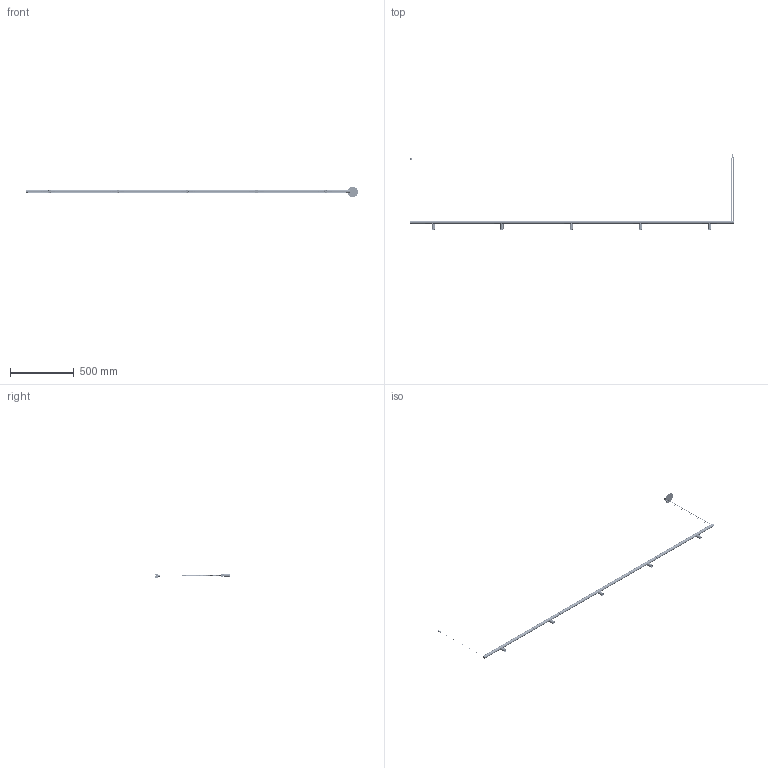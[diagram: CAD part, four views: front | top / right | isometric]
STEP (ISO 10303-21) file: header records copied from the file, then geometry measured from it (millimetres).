
FILE_DESCRIPTION (( 'STEP AP214' ), '1' );
FILE_NAME ('OVAL SPOT 25 rec.STEP', '2024-03-15T08:51:26', ( '' ), ( '' ), 'SwSTEP 2.0', 'SolidWorks 2024', '' );
FILE_SCHEMA (( 'AUTOMOTIVE_DESIGN' ));
Length unit declared in the file: millimetre
Products named in the file (41): Tuerca M8_Predeterminada; Difusor Negro Oval_0.1m; CJ04 - ENS Foco Spot (V1.2)_V3 09-20; 04-23DM03-Tope_Adaptador_1.3; CUI_DEVICES_PJ-005B_Ø2.5; 04-23DM02-Adaptador_Tapa(V1.2)_24V; countersunk flat head cross recess screw_din_DIN EN ISO 7046-1 - M2.5 x 6 - Z - 6N; Tubo Alu. Focus 25_V3-30-09-21; Regulador Cable Ø0.6 (Bereta LT1007.0601); Driver Entity EN1689; Ensamble Led; Tija Tiny_Inyección ; Tapa Micro V5_V5.1; Cable_VISUAL Alimentación Micro; Tuerca Hembra Conector Jack; BLX V-4 Single Array; Perfil Micro V4_2.5m; Ensamble Tapa + Tope_Con Conector; Tapa Alimentación Perfil_SCPRE; Floron U Muelle MICRO; Jack_Scpre; Tapa Unión-Final V5_V5.1 Colgante Union ; Taco cuerpo Micro; Ensamble Tensor Micro_Con Cable; Prisionero STEAB M4x4_8; Boca Focus 25_ZDNTL; Ensamblaje FLORON EMP. MICRO; Lente -115.11.HILL-20-22°-CREE; Ensamble Conector Jack Unión_Alimentación Colgante SCPRE; CJ01-ENS_Adaptador 24V_Proyector; Tapa Floron Emp. MICRO_Tapa empotarable; DM05-Tapa SPOT(V1.2); Tapon Tapa_2; Taco Micro_Ø10 M10*5; Conector Molex Hembra 43020; eje cable colgante_M8 MICRO; Cable acero_0.5m; Difusor Negro Oval_0.42m; 04-23DM01-Adaptador_Caja_DM01.3; OVAL SPOT 25 rec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
Assembly tree (58 placements, depth 4):
  OVAL SPOT 25 rec
    Perfil Micro V4_2.5m
    CJ01-ENS_Adaptador 24V_Proyector  x5
      04-23DM01-Adaptador_Caja_DM01.3
      04-23DM02-Adaptador_Tapa(V1.2)_24V
      Conector Molex Hembra 43020
      Driver Entity EN1689
      04-23DM03-Tope_Adaptador_1.3
      Tija Tiny_Inyección 
    CJ04 - ENS Foco Spot (V1.2)_V3 09-20  x5
      Tubo Alu. Focus 25_V3-30-09-21
      Boca Focus 25_ZDNTL
      Ensamble Led
        BLX V-4 Single Array
        Holder
        countersunk flat head cross recess screw_din_DIN EN ISO 7046-1 - M2.5 x 6 - Z - 6N  x2
      Prisionero STEAB M4x4_8
      Lente -115.11.HILL-20-22°-CREE
      DM05-Tapa SPOT(V1.2)
    Difusor Negro Oval_0.1m  x2
    Difusor Negro Oval_0.42m  x4
    Ensamble Tapa + Tope_Con Conector  x2
      Tapa Micro V5_V5.1
      CUI_DEVICES_PJ-005B_Ø2.5
      Tuerca Hembra Conector Jack
    Ensamble Tensor Micro_Con Cable  x2
      Taco Micro_Ø10 M10*5
      Taco cuerpo Micro
      Regulador Cable Ø0.6 (Bereta LT1007.0601)
      Cable acero_0.5m
    Tapa Unión-Final V5_V5.1 Colgante Union   x2
    Ensamble Conector Jack Unión_Alimentación Colgante SCPRE
      Cable_VISUAL Alimentación Micro
      Jack_Scpre
      Tapa Alimentación Perfil_SCPRE
      Prisionero STEAB M4x4_8
    Ensamblaje FLORON EMP. MICRO
      Tapa Floron Emp. MICRO_Tapa empotarable
      Floron U Muelle MICRO
      eje cable colgante_M8 MICRO
      Tuerca M8_Predeterminada
    Tapon Tapa_2
Bounding box: 2611.94 x 590.07 x 83.01 mm (x, y, z)
Volume: 517177.7 mm3; surface area: 670761 mm2
Topology: 108 solids, 185 shells, 8681 faces, 23108 edges, 14813 vertices
Faces by surface type: plane 3458, cylinder 2948, bspline 1084, torus 587, cone 450, sphere 154
Entity records: 114859 total; most frequent: CARTESIAN_POINT 61222, ORIENTED_EDGE 11691, DIRECTION 10027, EDGE_CURVE 5893, VERTEX_POINT 3835, AXIS2_PLACEMENT_3D 3707, VECTOR 2613, LINE 2613
